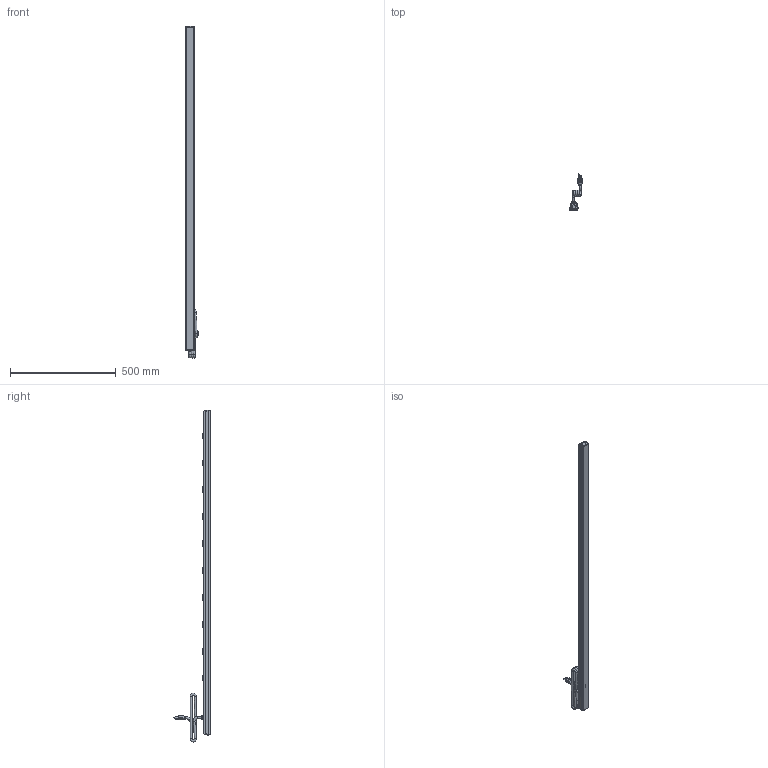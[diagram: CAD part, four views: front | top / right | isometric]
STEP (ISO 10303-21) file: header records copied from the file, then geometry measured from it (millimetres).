
FILE_DESCRIPTION((''),'2;1');
FILE_NAME('E:\Dutton\Manufacturing\drawings\Updated 2009\Vertical Rack Mount Strips\1586 Series\STEP''s\1586T10A1.stp','2010-01-19T13:39:47',('tfoster'),(''),'Autodesk Inventor 2010','Autodesk Inventor 2010','');
FILE_SCHEMA(('AUTOMOTIVE_DESIGN { 1 0 10303 214 1 1 1 1 }'));
Length unit declared in the file: inch
Products named in the file (12): 1586T10A1; 1586H10 top; 1586 bottom; End Cap; End Cap w breaker; Reset Switch; #6 - 0.375 Type A screw; Cored 2; toothwasher; round head 1-way 8-32 x 0.5 screw; Receptacle; Pilot light
Assembly tree (23 placements, depth 2):
  1586T10A1
    1586H10 top
    1586 bottom
    End Cap
    End Cap w breaker
    Reset Switch
    #6 - 0.375 Type A screw  x4
    Cored 2
    toothwasher
    round head 1-way 8-32 x 0.5 screw
    Receptacle  x10
    Pilot light
Bounding box: 60.19 x 170.82 x 1567.58 mm (x, y, z)
Volume: 588671 mm3; surface area: 580765.6 mm2
Topology: 23 solids, 23 shells, 1154 faces, 3300 edges, 2178 vertices
Faces by surface type: plane 702, cylinder 259, bspline 105, sphere 46, cone 27, torus 15
Full cylindrical faces by diameter (mm): 1.803 x3, 1.905 x2, 3 x2, 3.175 x12, 4.3 x1, 4.775 x1, 4.826 x1, 7.849 x1, 9.5 x5, 11 x1, 15.621 x1, 19.05 x2
Entity records: 24851 total; most frequent: CARTESIAN_POINT 8742, ORIENTED_EDGE 3474, DIRECTION 2946, EDGE_CURVE 1737, VERTEX_POINT 1231, VECTOR 1028, LINE 1028, AXIS2_PLACEMENT_3D 959
